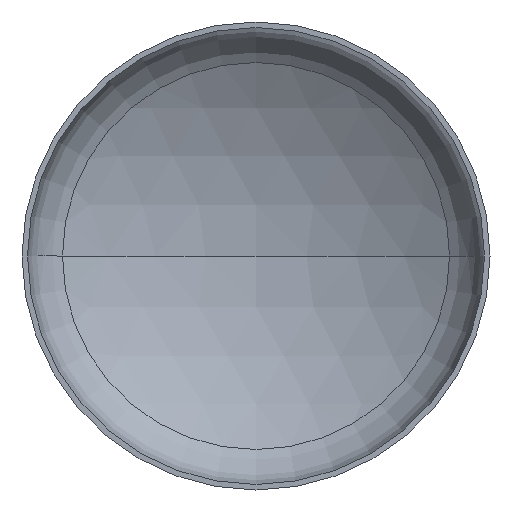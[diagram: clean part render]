
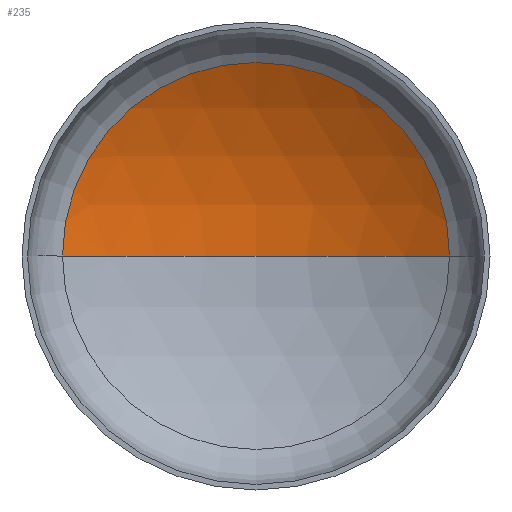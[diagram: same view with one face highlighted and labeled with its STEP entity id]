
A CAD part, front view. The second image highlights one B-rep face of the part: STEP entity #235.
In plain terms, the highlighted spherical face has radius 1760 mm.
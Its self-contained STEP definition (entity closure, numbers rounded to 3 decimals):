
#1 = CARTESIAN_POINT ( 'NONE',  ( 0., -1130.584, 0. ) ) ;
#8 = CARTESIAN_POINT ( 'NONE',  ( 0., -1130.584, 0. ) ) ;
#15 = EDGE_LOOP ( 'NONE', ( #26, #335, #112 ) ) ;
#26 = ORIENTED_EDGE ( 'NONE', *, *, #125, .F. ) ;
#27 = AXIS2_PLACEMENT_3D ( 'NONE', #226, #312, #172 ) ;
#28 = VERTEX_POINT ( 'NONE', #277 ) ;
#39 = VERTEX_POINT ( 'NONE', #281 ) ;
#49 = AXIS2_PLACEMENT_3D ( 'NONE', #8, #308, #266 ) ;
#53 = AXIS2_PLACEMENT_3D ( 'NONE', #1, #143, #400 ) ;
#56 = AXIS2_PLACEMENT_3D ( 'NONE', #187, #189, #294 ) ;
#78 = VERTEX_POINT ( 'NONE', #234 ) ;
#112 = ORIENTED_EDGE ( 'NONE', *, *, #119, .T. ) ;
#119 = EDGE_CURVE ( 'NONE', #39, #28, #374, .T. ) ;
#123 = EDGE_CURVE ( 'NONE', #78, #39, #313, .T. ) ;
#125 = EDGE_CURVE ( 'NONE', #78, #28, #258, .T. ) ;
#143 = DIRECTION ( 'NONE',  ( 0., 0., -1. ) ) ;
#172 = DIRECTION ( 'NONE',  ( -1., 0., 0. ) ) ;
#187 = CARTESIAN_POINT ( 'NONE',  ( 0., 376.055, 0. ) ) ;
#189 = DIRECTION ( 'NONE',  ( 0., -1., 0. ) ) ;
#226 = CARTESIAN_POINT ( 'NONE',  ( 0., -1130.584, 0. ) ) ;
#234 = CARTESIAN_POINT ( 'NONE',  ( 0., 629.416, 0. ) ) ;
#235 = ADVANCED_FACE ( 'NONE', ( #363 ), #304, .F. ) ;
#258 = CIRCLE ( 'NONE', #49, 1760. ) ;
#266 = DIRECTION ( 'NONE',  ( 1., 0., 0. ) ) ;
#277 = CARTESIAN_POINT ( 'NONE',  ( -909.746, 376.055, 0. ) ) ;
#281 = CARTESIAN_POINT ( 'NONE',  ( 909.746, 376.055, 0. ) ) ;
#294 = DIRECTION ( 'NONE',  ( 1., 0., 0. ) ) ;
#304 = SPHERICAL_SURFACE ( 'NONE', #27, 1760. ) ;
#308 = DIRECTION ( 'NONE',  ( 0., 0., 1. ) ) ;
#312 = DIRECTION ( 'NONE',  ( 0., 0., -1. ) ) ;
#313 = CIRCLE ( 'NONE', #53, 1760. ) ;
#335 = ORIENTED_EDGE ( 'NONE', *, *, #123, .T. ) ;
#363 = FACE_OUTER_BOUND ( 'NONE', #15, .T. ) ;
#374 = CIRCLE ( 'NONE', #56, 909.746 ) ;
#400 = DIRECTION ( 'NONE',  ( -1., 0., 0. ) ) ;
